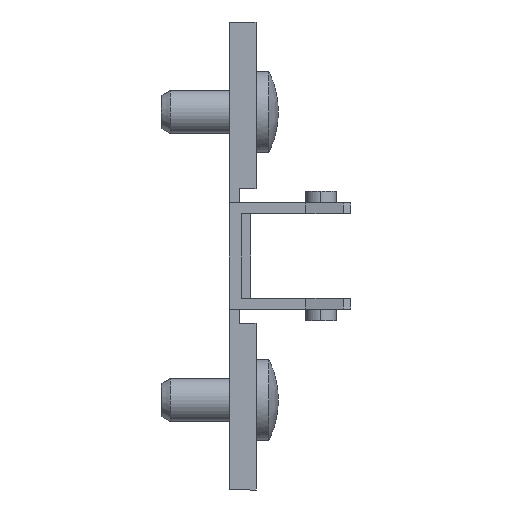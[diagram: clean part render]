
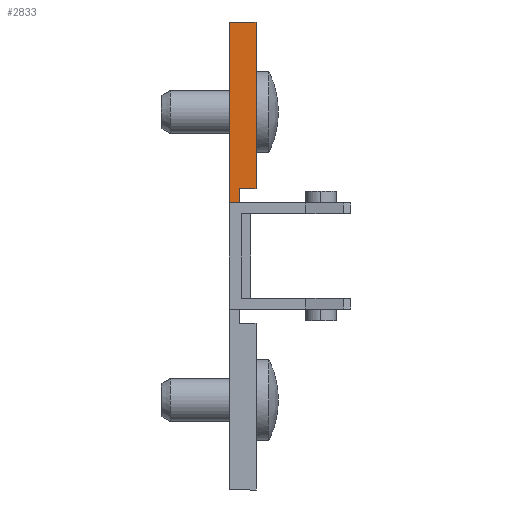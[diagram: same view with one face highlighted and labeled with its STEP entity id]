
A CAD part, front view. The second image highlights one B-rep face of the part: STEP entity #2833.
In plain terms, the highlighted planar face has unit normal (0, -1, 0).
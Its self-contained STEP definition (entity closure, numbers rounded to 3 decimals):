
#78 = VECTOR ( 'NONE', #569, 1000. ) ;
#79 = LINE ( 'NONE', #568, #78 ) ;
#170 = DIRECTION ( 'NONE',  ( 0., 0., -1. ) ) ;
#171 = CARTESIAN_POINT ( 'NONE',  ( 3., -9., 26. ) ) ;
#272 = CARTESIAN_POINT ( 'NONE',  ( 0., -9., 5. ) ) ;
#279 = DIRECTION ( 'NONE',  ( 0., 1., 0. ) ) ;
#280 = DIRECTION ( 'NONE',  ( 0., 0., 1. ) ) ;
#390 = PLANE ( 'NONE',  #2043 ) ;
#568 = CARTESIAN_POINT ( 'NONE',  ( 3., -9., 7.5 ) ) ;
#569 = DIRECTION ( 'NONE',  ( -1., 0., 0. ) ) ;
#721 = VERTEX_POINT ( 'NONE', #873 ) ;
#722 = VERTEX_POINT ( 'NONE', #874 ) ;
#723 = VERTEX_POINT ( 'NONE', #865 ) ;
#769 = VERTEX_POINT ( 'NONE', #821 ) ;
#812 = CARTESIAN_POINT ( 'NONE',  ( 3., -9., 7.5 ) ) ;
#821 = CARTESIAN_POINT ( 'NONE',  ( 1.2, -9., 7.5 ) ) ;
#865 = CARTESIAN_POINT ( 'NONE',  ( 1.2, -9., 5.9 ) ) ;
#873 = CARTESIAN_POINT ( 'NONE',  ( 0., -9., 5.9 ) ) ;
#874 = CARTESIAN_POINT ( 'NONE',  ( 0., -9., 26. ) ) ;
#978 = VERTEX_POINT ( 'NONE', #812 ) ;
#1008 = VERTEX_POINT ( 'NONE', #1037 ) ;
#1037 = CARTESIAN_POINT ( 'NONE',  ( 3., -9., 26. ) ) ;
#1216 = DIRECTION ( 'NONE',  ( 0., 0., 1. ) ) ;
#1221 = CARTESIAN_POINT ( 'NONE',  ( 0., -9., 5. ) ) ;
#1241 = CARTESIAN_POINT ( 'NONE',  ( 0., -9., 5.9 ) ) ;
#1242 = DIRECTION ( 'NONE',  ( -1., 0., 0. ) ) ;
#1395 = LINE ( 'NONE', #3071, #1416 ) ;
#1416 = VECTOR ( 'NONE', #3072, 1000. ) ;
#1421 = LINE ( 'NONE', #3045, #1505 ) ;
#1505 = VECTOR ( 'NONE', #3046, 1000. ) ;
#1581 = VECTOR ( 'NONE', #170, 1000. ) ;
#1585 = LINE ( 'NONE', #171, #1581 ) ;
#1708 = LINE ( 'NONE', #1221, #1713 ) ;
#1713 = VECTOR ( 'NONE', #1216, 1000. ) ;
#1737 = VECTOR ( 'NONE', #1242, 1000. ) ;
#1738 = LINE ( 'NONE', #1241, #1737 ) ;
#2043 = AXIS2_PLACEMENT_3D ( 'NONE', #272, #279, #280 ) ;
#2083 = EDGE_CURVE ( 'NONE', #723, #721, #1738, .T. ) ;
#2093 = EDGE_CURVE ( 'NONE', #721, #722, #1708, .T. ) ;
#2176 = EDGE_CURVE ( 'NONE', #769, #723, #1421, .T. ) ;
#2188 = EDGE_CURVE ( 'NONE', #722, #1008, #1395, .T. ) ;
#2254 = EDGE_CURVE ( 'NONE', #978, #769, #79, .T. ) ;
#2294 = EDGE_CURVE ( 'NONE', #1008, #978, #1585, .T. ) ;
#2749 = EDGE_LOOP ( 'NONE', ( #3379, #3380, #3381, #3382, #3383, #3384 ) ) ;
#2833 = ADVANCED_FACE ( 'NONE', ( #2938 ), #390, .F. ) ;
#2938 = FACE_OUTER_BOUND ( 'NONE', #2749, .T. ) ;
#3045 = CARTESIAN_POINT ( 'NONE',  ( 1.2, -9., 7.5 ) ) ;
#3046 = DIRECTION ( 'NONE',  ( 0., 0., -1. ) ) ;
#3071 = CARTESIAN_POINT ( 'NONE',  ( 0., -9., 26. ) ) ;
#3072 = DIRECTION ( 'NONE',  ( 1., 0., 0. ) ) ;
#3379 = ORIENTED_EDGE ( 'NONE', *, *, #2093, .F. ) ;
#3380 = ORIENTED_EDGE ( 'NONE', *, *, #2083, .F. ) ;
#3381 = ORIENTED_EDGE ( 'NONE', *, *, #2176, .F. ) ;
#3382 = ORIENTED_EDGE ( 'NONE', *, *, #2254, .F. ) ;
#3383 = ORIENTED_EDGE ( 'NONE', *, *, #2294, .F. ) ;
#3384 = ORIENTED_EDGE ( 'NONE', *, *, #2188, .F. ) ;
